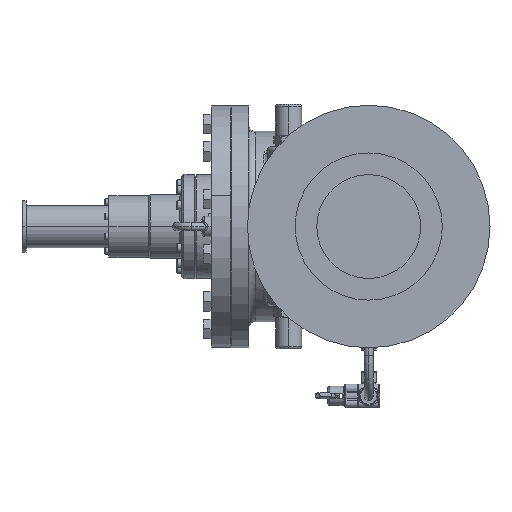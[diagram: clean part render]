
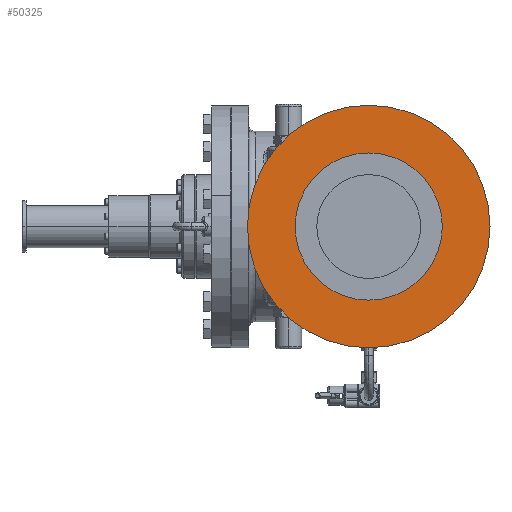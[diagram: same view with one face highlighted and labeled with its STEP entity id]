
A CAD part, left-side view. The second image highlights one B-rep face of the part: STEP entity #50325.
In plain terms, the highlighted planar face has unit normal (-1, 0, 0).
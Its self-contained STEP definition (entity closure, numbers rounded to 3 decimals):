
#9581=CARTESIAN_POINT('',(-246.1,0.,0.));
#9582=DIRECTION('',(-1.,0.,0.));
#9583=DIRECTION('',(0.,1.,0.));
#9584=AXIS2_PLACEMENT_3D('',#9581,#9582,#9583);
#9586=CARTESIAN_POINT('',(-246.1,0.,0.));
#9587=DIRECTION('',(1.,0.,0.));
#9588=DIRECTION('',(0.,1.,0.));
#9589=AXIS2_PLACEMENT_3D('',#9586,#9587,#9588);
#9591=CARTESIAN_POINT('',(-246.1,0.,0.));
#9592=DIRECTION('',(1.,0.,0.));
#9593=DIRECTION('',(0.,1.,0.));
#9594=AXIS2_PLACEMENT_3D('',#9591,#9592,#9593);
#9604=CARTESIAN_POINT('',(-246.1,0.,0.));
#9605=DIRECTION('',(-1.,0.,0.));
#9606=DIRECTION('',(0.,1.,0.));
#9607=AXIS2_PLACEMENT_3D('',#9604,#9605,#9606);
#35192=CARTESIAN_POINT('',(-246.1,178.,0.));
#35194=VERTEX_POINT('',#35192);
#35195=CARTESIAN_POINT('',(-246.1,108.,0.));
#35197=VERTEX_POINT('',#35195);
#35200=CARTESIAN_POINT('',(-246.1,-178.,0.));
#35202=VERTEX_POINT('',#35200);
#35203=CARTESIAN_POINT('',(-246.1,-108.,0.));
#35205=VERTEX_POINT('',#35203);
#50310=CARTESIAN_POINT('',(-246.1,0.,0.));
#50311=DIRECTION('',(1.,0.,0.));
#50312=DIRECTION('',(0.,-1.,0.));
#50313=AXIS2_PLACEMENT_3D('',#50310,#50311,#50312);
#50314=PLANE('',#50313);
#50315=ORIENTED_EDGE('',*,*,#50303,.F.);
#50316=ORIENTED_EDGE('',*,*,#50292,.T.);
#50317=EDGE_LOOP('',(#50315,#50316));
#50318=FACE_OUTER_BOUND('',#50317,.F.);
#50320=ORIENTED_EDGE('',*,*,#50319,.F.);
#50322=ORIENTED_EDGE('',*,*,#50321,.T.);
#50323=EDGE_LOOP('',(#50320,#50322));
#50324=FACE_BOUND('',#50323,.F.);
#50325=ADVANCED_FACE('',(#50318,#50324),#50314,.F.);
#9585=CIRCLE('',#9584,178.);
#9590=CIRCLE('',#9589,178.);
#9595=CIRCLE('',#9594,108.);
#9608=CIRCLE('',#9607,108.);
#50292=EDGE_CURVE('',#35194,#35202,#9590,.T.);
#50303=EDGE_CURVE('',#35194,#35202,#9585,.T.);
#50319=EDGE_CURVE('',#35197,#35205,#9595,.T.);
#50321=EDGE_CURVE('',#35197,#35205,#9608,.T.);
